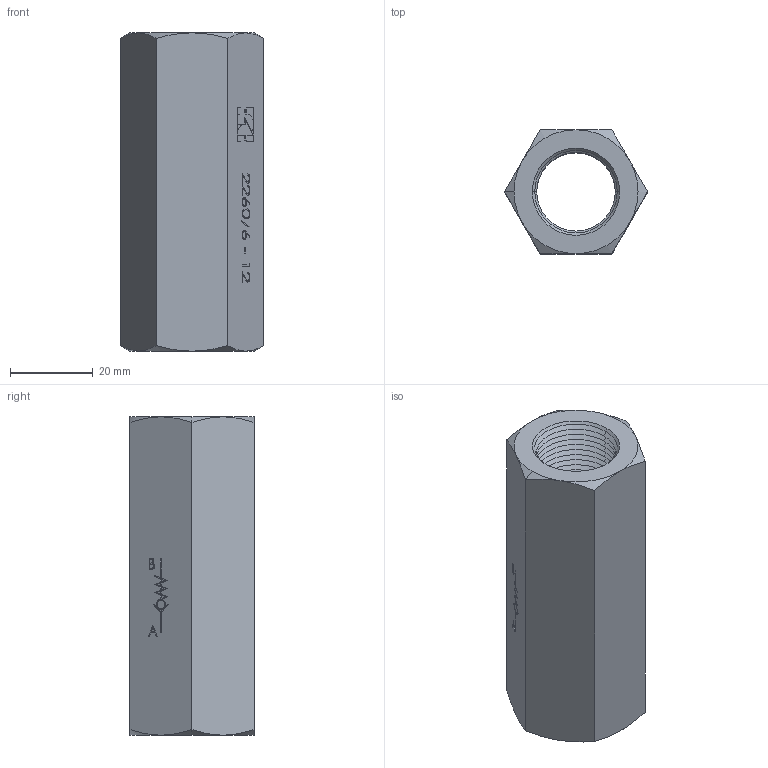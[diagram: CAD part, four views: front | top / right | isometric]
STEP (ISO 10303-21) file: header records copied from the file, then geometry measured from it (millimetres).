
FILE_DESCRIPTION (( 'STEP AP214' ), '1' );
FILE_NAME ('2260-6-12.STEP', '2015-04-08T18:46:11', ( '' ), ( '' ), 'SwSTEP 2.0', 'SolidWorks 2014', '' );
FILE_SCHEMA (( 'AUTOMOTIVE_DESIGN' ));
Length unit declared in the file: millimetre
Products named in the file (1): 2260-6-12
Bounding box: 34.64 x 30 x 77 mm (x, y, z)
Surface area: 11748.4 mm2 (no closed solid volume)
Topology: 0 solids, 6 shells, 289 faces, 790 edges, 506 vertices
Faces by surface type: plane 143, cone 84, bspline 50, cylinder 12
Entity records: 15453 total; most frequent: CARTESIAN_POINT 5332, ORIENTED_EDGE 1446, DIRECTION 1264, EDGE_CURVE 790, LINE 532, VECTOR 532, VERTEX_POINT 506, AXIS2_PLACEMENT_3D 366
